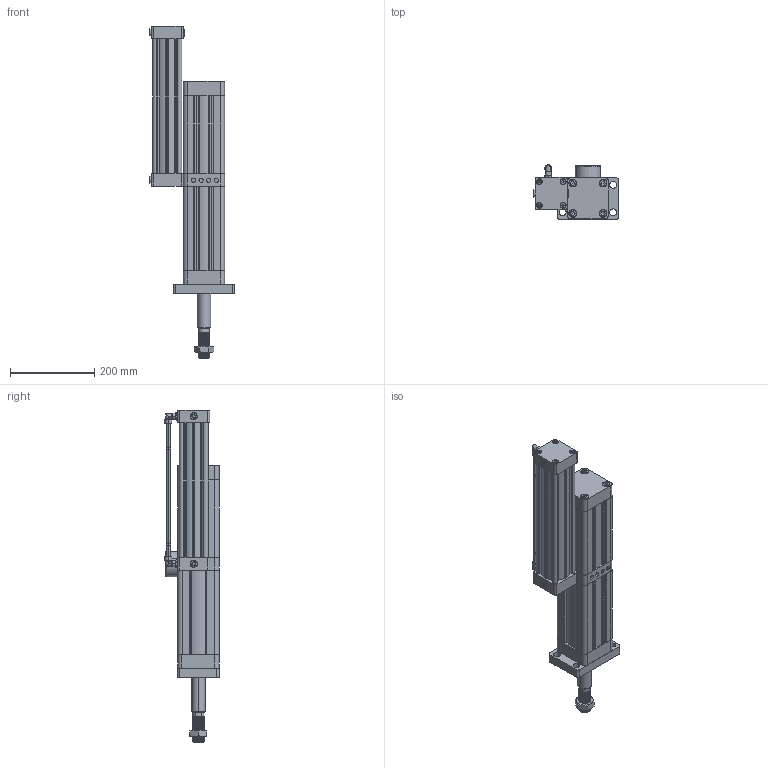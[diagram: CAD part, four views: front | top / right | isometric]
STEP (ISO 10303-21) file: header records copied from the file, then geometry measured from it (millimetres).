
FILE_DESCRIPTION(('CATIA V5 STEP Exchange'),'2;1');
FILE_NAME('D:\stp file for catalog\PHP-STP\PHP-80.stp','2018-04-18T11:40:30+00:00',('none'),('none'),'CATIA Version 5-6 Release 2016','CATIA V5 STEP AP203','none');
FILE_SCHEMA(('CONFIG_CONTROL_DESIGN'));
Products named in the file (2): Cylinder; prssure
Assembly tree (39 placements, depth 3):
  Cylinder
    #57
    #689
    #996
    #4193
    #4840
    #8037
    #8613
    #9204
    #12710
    prssure
      #13507
      #13819
      #13923
      #132929
      #249919
      #249942
      #250304
      #250408
      #250583
      #250953
      #251846
    #252752
    #252856
    #253734
    #254612
    #255490
    #256368
    #264992
    #265906
    #266820
    #267734
    #268648
    #269452  x3
    #269969  x2
    #270151  x2
Bounding box: 201.5 x 128.25 x 787.94 mm (x, y, z)
Volume: 2919828.8 mm3; surface area: 871361.8 mm2
Topology: 85 solids, 85 shells, 8368 faces, 24261 edges, 16129 vertices
Faces by surface type: plane 7489, cylinder 662, bspline 93, cone 78, torus 46
Entity records: 270981 total; most frequent: CARTESIAN_POINT 54062, ORIENTED_EDGE 48208, DIRECTION 39239, EDGE_CURVE 24104, VECTOR 22313, LINE 22313, VERTEX_POINT 16028, AXIS2_PLACEMENT_3D 9127
